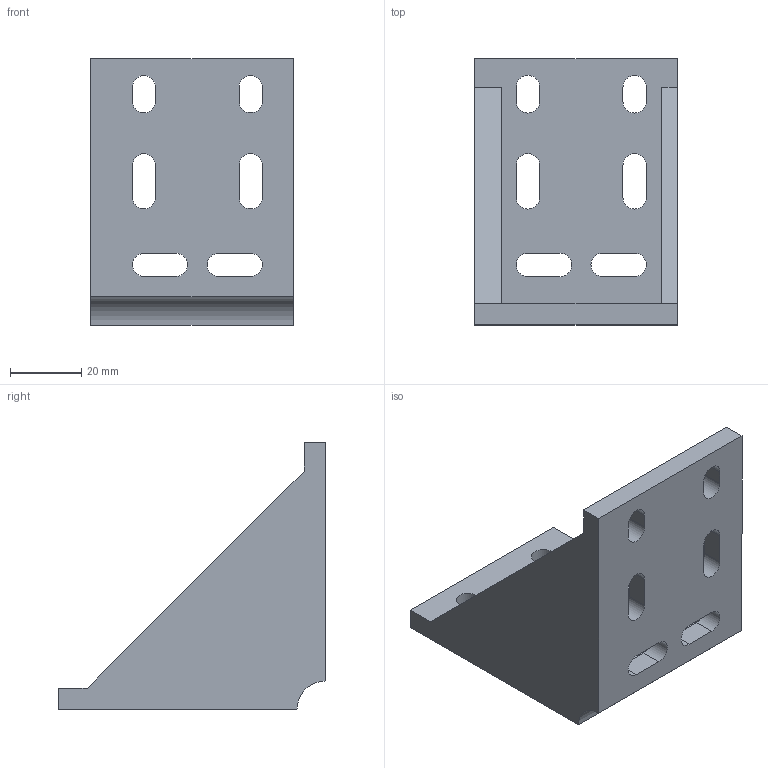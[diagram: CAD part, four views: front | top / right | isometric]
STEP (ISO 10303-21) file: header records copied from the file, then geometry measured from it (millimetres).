
FILE_DESCRIPTION(/* description */ ('Unknown'),/* implementation_level */ '2;1');
FILE_NAME(/* name */ 'DL5775K',/* time_stamp */ '2026-09-18T09:58:38+08:00',/* author */ ('Unknown'),/* organization */ ('Unknown'),/* preprocessor_version */ 'ST-DEVELOPER v16.7',/* originating_system */ 'DEX',/* authorisation */ $);
FILE_SCHEMA (('AUTOMOTIVE_DESIGN {1 0 10303 214 3 1 1}'));
Length unit declared in the file: millimetre
Products named in the file (1): 1DL5775
Bounding box: 57 x 75 x 75 mm (x, y, z)
Volume: 62824.2 mm3; surface area: 26121 mm2
Topology: 1 solids, 1 shells, 61 faces, 177 edges, 118 vertices
Faces by surface type: plane 36, cylinder 25
Entity records: 2099 total; most frequent: CARTESIAN_POINT 357, ORIENTED_EDGE 354, DIRECTION 351, EDGE_CURVE 177, LINE 127, VECTOR 127, VERTEX_POINT 118, AXIS2_PLACEMENT_3D 112
